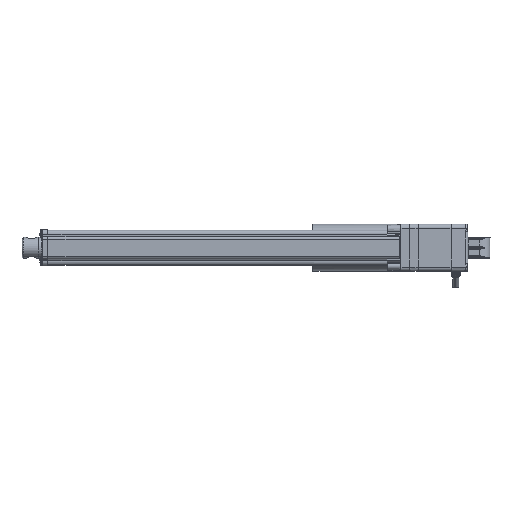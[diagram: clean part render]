
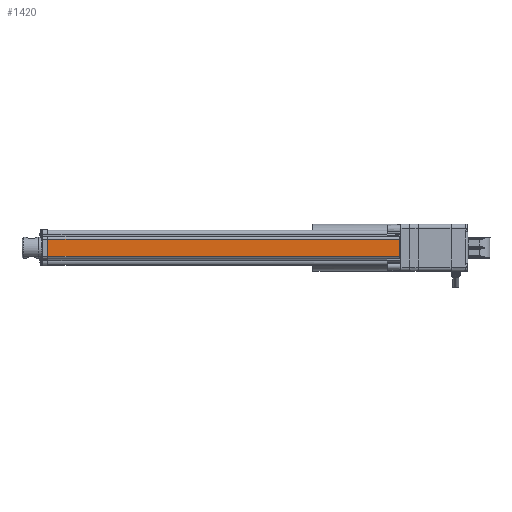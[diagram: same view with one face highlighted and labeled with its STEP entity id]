
A CAD part, left-side view. The second image highlights one B-rep face of the part: STEP entity #1420.
In plain terms, the highlighted planar face has unit normal (-1, 0, 0).
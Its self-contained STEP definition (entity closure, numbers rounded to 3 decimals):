
#390 = VECTOR ( 'NONE', #24661, 1000. ) ;
#1208 = VECTOR ( 'NONE', #32265, 1000. ) ;
#1420 = ADVANCED_FACE ( 'NONE', ( #8681 ), #11334, .F. ) ;
#1857 = EDGE_CURVE ( 'NONE', #14769, #27057, #10168, .T. ) ;
#2902 = LINE ( 'NONE', #3426, #390 ) ;
#3426 = CARTESIAN_POINT ( 'NONE',  ( -39.091, 66.025, 8.094 ) ) ;
#6023 = DIRECTION ( 'NONE',  ( 0., 0., 1. ) ) ;
#6167 = ORIENTED_EDGE ( 'NONE', *, *, #9572, .F. ) ;
#8417 = VERTEX_POINT ( 'NONE', #28986 ) ;
#8681 = FACE_OUTER_BOUND ( 'NONE', #34893, .T. ) ;
#8725 = ORIENTED_EDGE ( 'NONE', *, *, #23210, .F. ) ;
#9009 = ORIENTED_EDGE ( 'NONE', *, *, #19366, .F. ) ;
#9572 = EDGE_CURVE ( 'NONE', #27057, #8417, #2902, .T. ) ;
#10168 = LINE ( 'NONE', #10504, #1208 ) ;
#10504 = CARTESIAN_POINT ( 'NONE',  ( -39.091, 392.025, -8.097 ) ) ;
#10774 = ORIENTED_EDGE ( 'NONE', *, *, #1857, .F. ) ;
#11334 = PLANE ( 'NONE',  #15655 ) ;
#11441 = VERTEX_POINT ( 'NONE', #30435 ) ;
#11575 = LINE ( 'NONE', #19370, #26388 ) ;
#14769 = VERTEX_POINT ( 'NONE', #25374 ) ;
#15373 = VECTOR ( 'NONE', #23843, 1000. ) ;
#15655 = AXIS2_PLACEMENT_3D ( 'NONE', #25131, #16824, #6023 ) ;
#16824 = DIRECTION ( 'NONE',  ( 1., 0., 0. ) ) ;
#19366 = EDGE_CURVE ( 'NONE', #8417, #11441, #11575, .T. ) ;
#19370 = CARTESIAN_POINT ( 'NONE',  ( -39.091, 58.025, -10.602 ) ) ;
#23210 = EDGE_CURVE ( 'NONE', #11441, #14769, #34151, .T. ) ;
#23756 = CARTESIAN_POINT ( 'NONE',  ( -39.091, 392.025, 8.094 ) ) ;
#23843 = DIRECTION ( 'NONE',  ( 0., 1., 0. ) ) ;
#24661 = DIRECTION ( 'NONE',  ( 0., -1., 0. ) ) ;
#25131 = CARTESIAN_POINT ( 'NONE',  ( -39.091, 66.025, -0.002 ) ) ;
#25374 = CARTESIAN_POINT ( 'NONE',  ( -39.091, 392.025, -8.097 ) ) ;
#26388 = VECTOR ( 'NONE', #33000, 1000. ) ;
#27057 = VERTEX_POINT ( 'NONE', #23756 ) ;
#28986 = CARTESIAN_POINT ( 'NONE',  ( -39.091, 58.025, 8.094 ) ) ;
#30435 = CARTESIAN_POINT ( 'NONE',  ( -39.091, 58.025, -8.097 ) ) ;
#32265 = DIRECTION ( 'NONE',  ( 0., 0., 1. ) ) ;
#33000 = DIRECTION ( 'NONE',  ( 0., 0., -1. ) ) ;
#34151 = LINE ( 'NONE', #34320, #15373 ) ;
#34320 = CARTESIAN_POINT ( 'NONE',  ( -39.091, 66.025, -8.097 ) ) ;
#34893 = EDGE_LOOP ( 'NONE', ( #6167, #10774, #8725, #9009 ) ) ;
